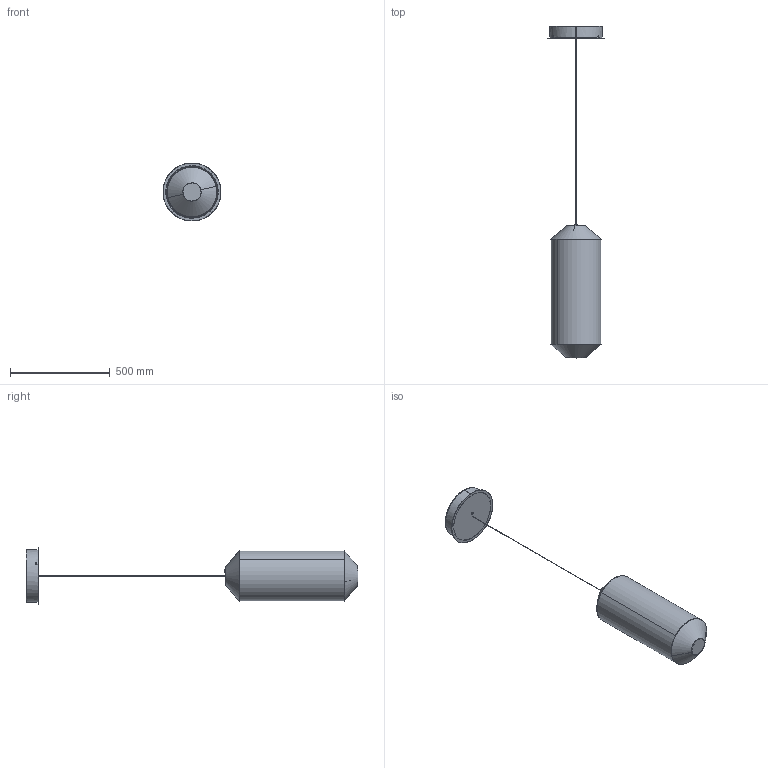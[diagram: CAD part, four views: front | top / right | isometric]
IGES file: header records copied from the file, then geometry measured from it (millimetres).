
Start section: SolidWorks IGES file using analytic representation for surfaces
Global section: file name: C:\Users\bernat.bisbal\Desktop\3D TEKIÒ WEB\TEKVP1.IGS; native system: SolidWorks 2016; preprocessor: SolidWorks 2016; author: bernat.bisbal; date: 180702.141149; units: millimetre
Bounding box: 290 x 1662.01 x 290 mm (x, y, z)
Surface area: 1427278.4 mm2 (no closed solid volume)
Topology: 0 solids, 0 shells, 170 faces, 3657 edges, 3657 vertices
Faces by surface type: revolution 110, bspline 60
